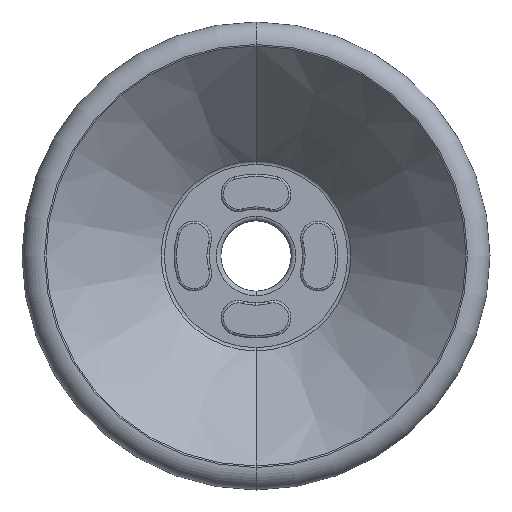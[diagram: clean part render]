
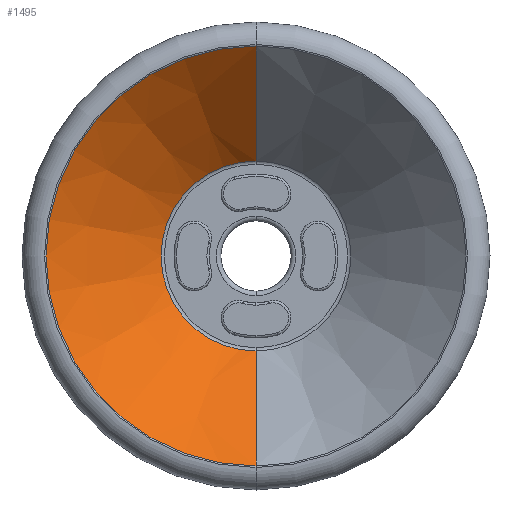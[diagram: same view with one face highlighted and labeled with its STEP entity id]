
A CAD part, front view. The second image highlights one B-rep face of the part: STEP entity #1495.
In plain terms, the highlighted conical face has half-angle 45.032 degrees and reference radius 9 mm.
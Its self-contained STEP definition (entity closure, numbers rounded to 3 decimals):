
#18 = AXIS2_PLACEMENT_3D ( 'NONE', #2430, #1252, #1988 ) ;
#65 = CIRCLE ( 'NONE', #18, 8.974 ) ;
#164 = CARTESIAN_POINT ( 'NONE',  ( 0., -10.058, -4.059 ) ) ;
#245 = LINE ( 'NONE', #808, #1444 ) ;
#263 = CARTESIAN_POINT ( 'NONE',  ( 0., -10.058, 0. ) ) ;
#357 = CONICAL_SURFACE ( 'NONE', #2250, 9., 0.786 ) ;
#393 = ORIENTED_EDGE ( 'NONE', *, *, #560, .T. ) ;
#486 = CARTESIAN_POINT ( 'NONE',  ( 0., -14.994, 0. ) ) ;
#517 = DIRECTION ( 'NONE',  ( 0., 0., -1. ) ) ;
#526 = DIRECTION ( 'NONE',  ( 0., -0.707, -0.708 ) ) ;
#560 = EDGE_CURVE ( 'NONE', #2929, #978, #65, .T. ) ;
#618 = VECTOR ( 'NONE', #526, 1000. ) ;
#621 = EDGE_CURVE ( 'NONE', #1873, #978, #847, .T. ) ;
#731 = CIRCLE ( 'NONE', #1380, 4.059 ) ;
#808 = CARTESIAN_POINT ( 'NONE',  ( 0., -14.994, 9. ) ) ;
#847 = LINE ( 'NONE', #2920, #618 ) ;
#978 = VERTEX_POINT ( 'NONE', #2289 ) ;
#1252 = DIRECTION ( 'NONE',  ( 0., -1., 0. ) ) ;
#1341 = CARTESIAN_POINT ( 'NONE',  ( 0., -14.969, 8.974 ) ) ;
#1363 = EDGE_CURVE ( 'NONE', #1402, #2929, #245, .T. ) ;
#1380 = AXIS2_PLACEMENT_3D ( 'NONE', #263, #2407, #517 ) ;
#1402 = VERTEX_POINT ( 'NONE', #2715 ) ;
#1444 = VECTOR ( 'NONE', #1748, 1000. ) ;
#1495 = ADVANCED_FACE ( 'NONE', ( #1672 ), #357, .F. ) ;
#1502 = EDGE_CURVE ( 'NONE', #1873, #1402, #731, .T. ) ;
#1672 = FACE_OUTER_BOUND ( 'NONE', #2721, .T. ) ;
#1748 = DIRECTION ( 'NONE',  ( 0., -0.707, 0.708 ) ) ;
#1873 = VERTEX_POINT ( 'NONE', #164 ) ;
#1901 = DIRECTION ( 'NONE',  ( 0., 0., -1. ) ) ;
#1988 = DIRECTION ( 'NONE',  ( 0., 0., 1. ) ) ;
#2057 = ORIENTED_EDGE ( 'NONE', *, *, #621, .F. ) ;
#2132 = ORIENTED_EDGE ( 'NONE', *, *, #1363, .T. ) ;
#2250 = AXIS2_PLACEMENT_3D ( 'NONE', #486, #2896, #1901 ) ;
#2289 = CARTESIAN_POINT ( 'NONE',  ( 0., -14.969, -8.974 ) ) ;
#2407 = DIRECTION ( 'NONE',  ( 0., 1., 0. ) ) ;
#2430 = CARTESIAN_POINT ( 'NONE',  ( 0., -14.969, 0. ) ) ;
#2689 = ORIENTED_EDGE ( 'NONE', *, *, #1502, .T. ) ;
#2715 = CARTESIAN_POINT ( 'NONE',  ( 0., -10.058, 4.059 ) ) ;
#2721 = EDGE_LOOP ( 'NONE', ( #2689, #2132, #393, #2057 ) ) ;
#2896 = DIRECTION ( 'NONE',  ( 0., -1., 0. ) ) ;
#2920 = CARTESIAN_POINT ( 'NONE',  ( 0., -14.994, -9. ) ) ;
#2929 = VERTEX_POINT ( 'NONE', #1341 ) ;
